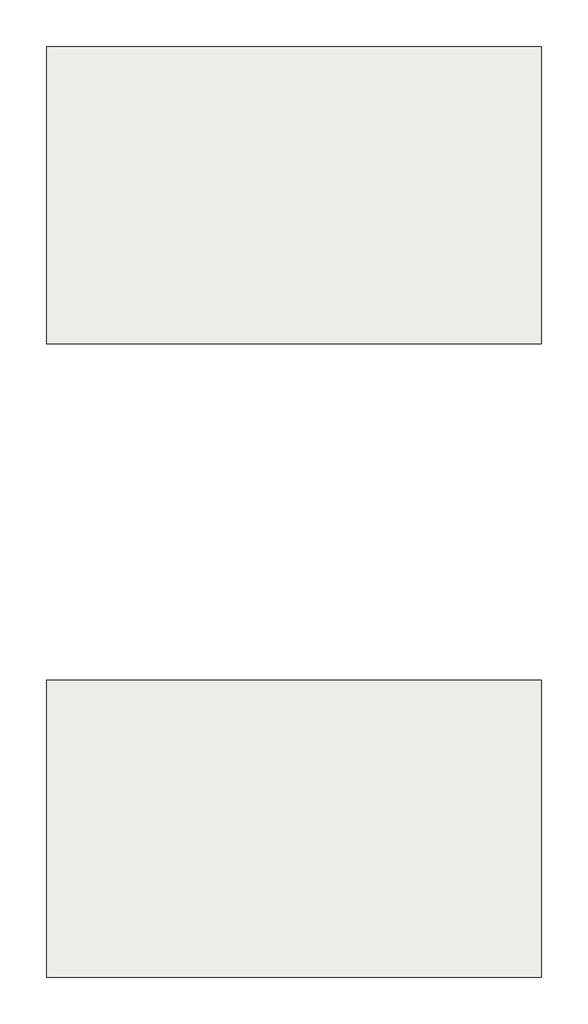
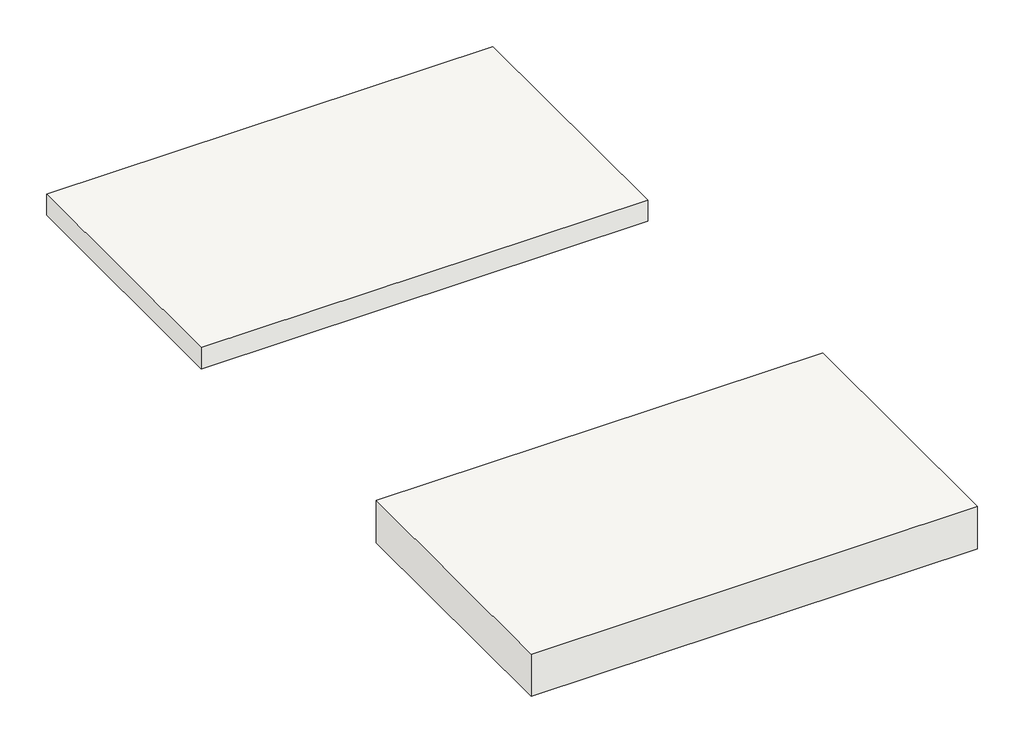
# One storey: 2 coverings.
"""IFC4 building model written with IfcOpenShell, lengths in millimetres."""

from ifc_helpers import new_model, si_unit, origin, origin_with_axes, place, context, project, spatial, polyline, outline, extrude, element, save

model = new_model("IFC4")

# Units and contexts
model_context = context("Model", 3, world=origin())
ifc_project = project(units=[si_unit("LENGTHUNIT", "METRE", prefix="MILLI")], contexts=[model_context])

# Site, building, storey
site = spatial("IfcSite", under=ifc_project)
building = spatial("IfcBuilding", under=site)
storey = spatial("IfcBuildingStorey", under=building, Name="Референтни ниво", Elevation=0.0)

# Coverings
placement = place(None, origin())
element("IfcCovering", 1, ObjectType="Knauf Insulation - NaturBoard FIT - 50 mm - 50 x 1000 x 600 mm", at=placement, inside=storey, context=model_context, shape_type="SweptSolid", body=[
    extrude(outline(polyline([(-257652.0902031, 183264.3977243), (-257652.0902031, 182664.3977243), (-258652.0902031, 182664.3977243), (-258652.0902031, 183264.3977243), (-257652.0902031, 183264.3977243)])), origin_with_axes(), (0.0, 0.0, 1.0), 50.0),
])
element("IfcCovering", 2, ObjectType="Knauf Insulation - NaturBoard FIT - 100 mm - 100 x 1000 x 600 mm", at=placement, inside=storey, context=model_context, shape_type="SweptSolid", body=[
    extrude(outline(polyline([(-257652.0902031, 181984.3977243), (-257652.0902031, 181384.3977243), (-258652.0902031, 181384.3977243), (-258652.0902031, 181984.3977243), (-257652.0902031, 181984.3977243)])), origin_with_axes(), (0.0, 0.0, 1.0), 100.0),
])

save(model, "model.ifc")
